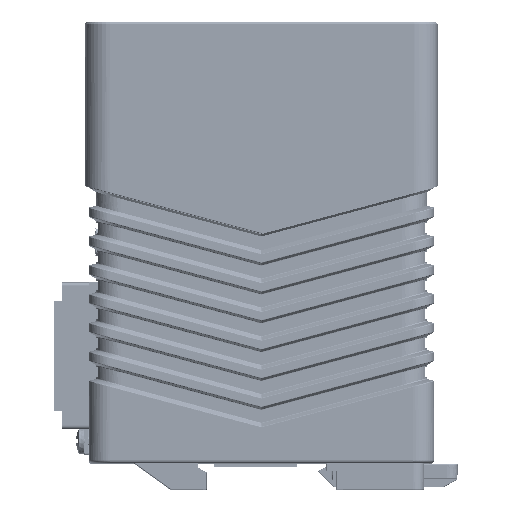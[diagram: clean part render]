
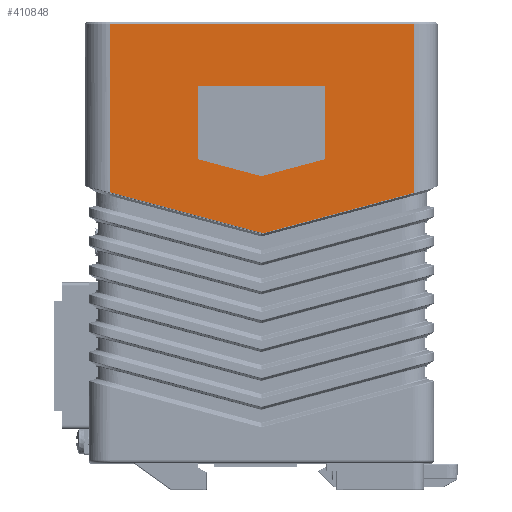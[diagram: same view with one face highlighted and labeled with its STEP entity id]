
A CAD part, left-side view. The second image highlights one B-rep face of the part: STEP entity #410848.
In plain terms, the highlighted planar face has unit normal (-1, 0, 0).
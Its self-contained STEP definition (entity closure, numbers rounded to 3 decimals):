
#14256 = VERTEX_POINT ( 'NONE', #69324 ) ;
#21867 = EDGE_CURVE ( 'NONE', #341080, #185076, #338355, .T. ) ;
#32191 = EDGE_CURVE ( 'NONE', #14256, #159435, #51653, .T. ) ;
#36326 = CARTESIAN_POINT ( 'NONE',  ( -13.34, -17.5, -37.829 ) ) ;
#40703 = CARTESIAN_POINT ( 'NONE',  ( -13.34, 0., -42.518 ) ) ;
#41826 = ORIENTED_EDGE ( 'NONE', *, *, #32191, .F. ) ;
#43586 = ORIENTED_EDGE ( 'NONE', *, *, #360287, .T. ) ;
#47334 = CARTESIAN_POINT ( 'NONE',  ( -13.34, 41.895, 0.25 ) ) ;
#51653 = LINE ( 'NONE', #223774, #218298 ) ;
#53164 = VECTOR ( 'NONE', #263988, 1000. ) ;
#54346 = DIRECTION ( 'NONE',  ( 0., 1., 0. ) ) ;
#57802 = VECTOR ( 'NONE', #111426, 1000. ) ;
#61343 = CARTESIAN_POINT ( 'NONE',  ( -13.34, -17.5, -17.5 ) ) ;
#65752 = CARTESIAN_POINT ( 'NONE',  ( -13.34, -42.246, 0.25 ) ) ;
#67055 = EDGE_LOOP ( 'NONE', ( #383623, #358791, #272802, #41826, #281147 ) ) ;
#69324 = CARTESIAN_POINT ( 'NONE',  ( -13.34, 17.5, -37.829 ) ) ;
#78209 = CARTESIAN_POINT ( 'NONE',  ( -13.34, 17.5, -17.5 ) ) ;
#86744 = CARTESIAN_POINT ( 'NONE',  ( -13.34, 41.895, -0.354 ) ) ;
#91599 = FACE_OUTER_BOUND ( 'NONE', #181875, .T. ) ;
#98131 = PLANE ( 'NONE',  #393705 ) ;
#98852 = VECTOR ( 'NONE', #369546, 1000. ) ;
#104888 = EDGE_CURVE ( 'NONE', #235886, #111840, #159788, .T. ) ;
#111426 = DIRECTION ( 'NONE',  ( 0., 0., -1. ) ) ;
#111840 = VERTEX_POINT ( 'NONE', #323069 ) ;
#115335 = ORIENTED_EDGE ( 'NONE', *, *, #263453, .F. ) ;
#117258 = CARTESIAN_POINT ( 'NONE',  ( -13.34, 0., -42.518 ) ) ;
#125757 = VECTOR ( 'NONE', #128883, 1000. ) ;
#128883 = DIRECTION ( 'NONE',  ( 0., -0.966, -0.259 ) ) ;
#129448 = CARTESIAN_POINT ( 'NONE',  ( -13.34, 41.895, -0.354 ) ) ;
#131452 = LINE ( 'NONE', #265999, #364212 ) ;
#145991 = LINE ( 'NONE', #117258, #301042 ) ;
#152072 = ORIENTED_EDGE ( 'NONE', *, *, #356665, .F. ) ;
#159435 = VERTEX_POINT ( 'NONE', #40703 ) ;
#159583 = CARTESIAN_POINT ( 'NONE',  ( -13.34, 41.895, -46.965 ) ) ;
#159788 = LINE ( 'NONE', #289965, #125757 ) ;
#164559 = LINE ( 'NONE', #400440, #98852 ) ;
#167987 = VERTEX_POINT ( 'NONE', #214798 ) ;
#170971 = DIRECTION ( 'NONE',  ( 0., 0., 1. ) ) ;
#178597 = VECTOR ( 'NONE', #324498, 1000. ) ;
#178627 = ORIENTED_EDGE ( 'NONE', *, *, #104888, .T. ) ;
#181875 = EDGE_LOOP ( 'NONE', ( #272221, #178627, #152072, #115335, #43586 ) ) ;
#185076 = VERTEX_POINT ( 'NONE', #61343 ) ;
#186313 = DIRECTION ( 'NONE',  ( 0., -0.966, -0.259 ) ) ;
#198273 = EDGE_CURVE ( 'NONE', #277278, #14256, #164559, .T. ) ;
#201485 = EDGE_CURVE ( 'NONE', #264297, #235886, #411385, .T. ) ;
#202545 = LINE ( 'NONE', #65752, #299158 ) ;
#214798 = CARTESIAN_POINT ( 'NONE',  ( -13.34, -42.246, -0.354 ) ) ;
#218298 = VECTOR ( 'NONE', #186313, 1000. ) ;
#223774 = CARTESIAN_POINT ( 'NONE',  ( -13.34, 17.5, -37.829 ) ) ;
#235886 = VERTEX_POINT ( 'NONE', #159583 ) ;
#237332 = VERTEX_POINT ( 'NONE', #365115 ) ;
#258404 = LINE ( 'NONE', #432513, #178597 ) ;
#260682 = VECTOR ( 'NONE', #170971, 1000. ) ;
#263453 = EDGE_CURVE ( 'NONE', #167987, #237332, #202545, .T. ) ;
#263988 = DIRECTION ( 'NONE',  ( 0., 1., 0. ) ) ;
#264297 = VERTEX_POINT ( 'NONE', #86744 ) ;
#265999 = CARTESIAN_POINT ( 'NONE',  ( -13.34, -17.5, -17.5 ) ) ;
#272221 = ORIENTED_EDGE ( 'NONE', *, *, #201485, .T. ) ;
#272802 = ORIENTED_EDGE ( 'NONE', *, *, #309348, .F. ) ;
#277278 = VERTEX_POINT ( 'NONE', #78209 ) ;
#281147 = ORIENTED_EDGE ( 'NONE', *, *, #198273, .F. ) ;
#289965 = CARTESIAN_POINT ( 'NONE',  ( -13.34, -0.065, -58.209 ) ) ;
#292271 = CARTESIAN_POINT ( 'NONE',  ( -13.34, 41.895, 0.25 ) ) ;
#299158 = VECTOR ( 'NONE', #339019, 1000. ) ;
#300925 = DIRECTION ( 'NONE',  ( 1., 0., 0. ) ) ;
#301042 = VECTOR ( 'NONE', #353139, 1000. ) ;
#309348 = EDGE_CURVE ( 'NONE', #159435, #341080, #145991, .T. ) ;
#323069 = CARTESIAN_POINT ( 'NONE',  ( -13.34, -0.483, -58.321 ) ) ;
#324498 = DIRECTION ( 'NONE',  ( 0., 0.966, -0.259 ) ) ;
#327833 = EDGE_CURVE ( 'NONE', #185076, #277278, #131452, .T. ) ;
#338355 = LINE ( 'NONE', #36326, #260682 ) ;
#339019 = DIRECTION ( 'NONE',  ( 0., 0., -1. ) ) ;
#341080 = VERTEX_POINT ( 'NONE', #393208 ) ;
#353139 = DIRECTION ( 'NONE',  ( 0., -0.966, 0.259 ) ) ;
#356665 = EDGE_CURVE ( 'NONE', #237332, #111840, #258404, .T. ) ;
#358791 = ORIENTED_EDGE ( 'NONE', *, *, #21867, .F. ) ;
#360287 = EDGE_CURVE ( 'NONE', #167987, #264297, #398484, .T. ) ;
#360566 = FACE_BOUND ( 'NONE', #67055, .T. ) ;
#364212 = VECTOR ( 'NONE', #54346, 1000. ) ;
#365115 = CARTESIAN_POINT ( 'NONE',  ( -13.34, -42.246, -47.13 ) ) ;
#369295 = DIRECTION ( 'NONE',  ( 0., 0., -1. ) ) ;
#369546 = DIRECTION ( 'NONE',  ( 0., 0., -1. ) ) ;
#383623 = ORIENTED_EDGE ( 'NONE', *, *, #327833, .F. ) ;
#393208 = CARTESIAN_POINT ( 'NONE',  ( -13.34, -17.5, -37.829 ) ) ;
#393705 = AXIS2_PLACEMENT_3D ( 'NONE', #292271, #300925, #369295 ) ;
#398484 = LINE ( 'NONE', #129448, #53164 ) ;
#400440 = CARTESIAN_POINT ( 'NONE',  ( -13.34, 17.5, -17.5 ) ) ;
#410848 = ADVANCED_FACE ( 'NONE', ( #360566, #91599 ), #98131, .F. ) ;
#411385 = LINE ( 'NONE', #47334, #57802 ) ;
#432513 = CARTESIAN_POINT ( 'NONE',  ( -13.34, 24.414, -64.992 ) ) ;
